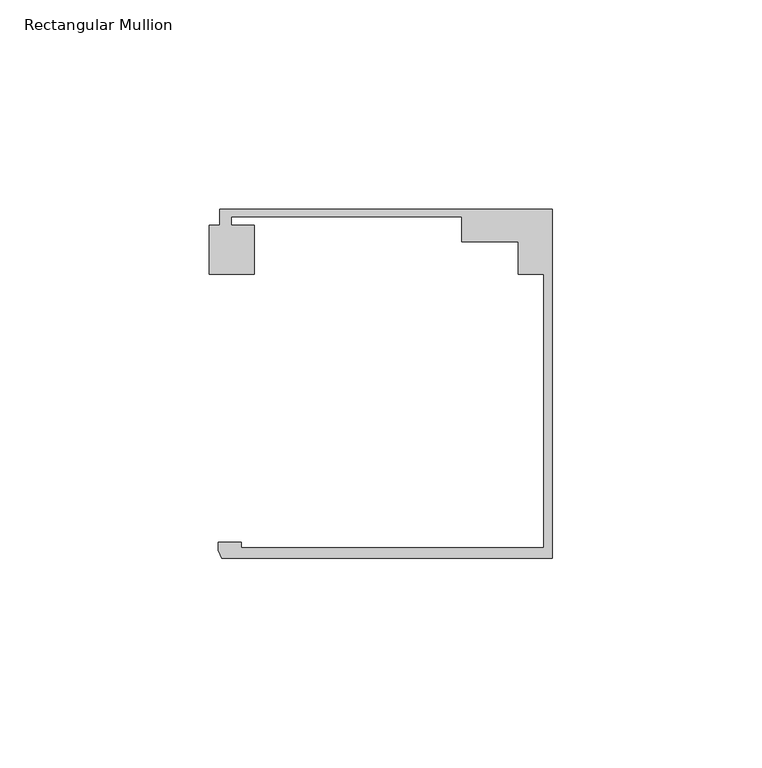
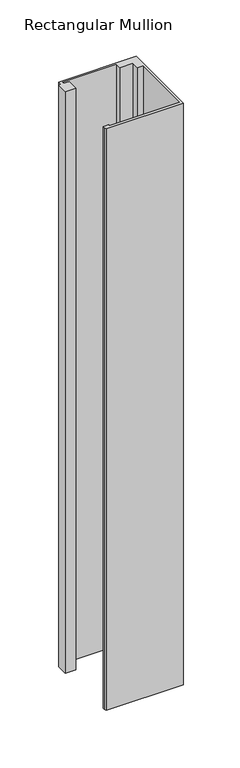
"""IFC4 building model written with IfcOpenShell, lengths in millimetres: member geometry, Rectangular Mullion : Danpal_Airpt_End-Mullion_B2."""

from ifc_helpers import new_model, si_unit, frame, origin, place, context, project, spatial, polyline, outline, extrude, source, transform, mapped, element, save


def rectangular_mullion_a7efbd97(model_context):
    return source(origin(), model_context, "Body", "SweptSolid", [
        extrude(outline(polyline([(-2.0000001, -74.9940824), (-2.0000001, -9.7188964), (-8.1, -9.7188964), (-8.1, -1.8818054), (-21.5478166, -1.8818054), (-21.5478166, 4.0051512), (-76.6478166, 4.0051512), (-76.6478166, 2.0051513), (-71.1433532, 2.0051513), (-71.1433532, -9.6875514), (-81.8592324, -9.6875514), (-81.8592324, 2.0051513), (-79.3474874, 2.0051513), (-79.3474874, 5.8051514), (0.0, 5.8051514), (0.0, -77.4940825), (-78.8515009, -77.4940825), (-79.7784606, -75.5472671), (-79.7784606, -73.6940824), (-74.2474668, -73.6940824), (-74.2474668, -74.9940824), (-2.0000001, -74.9940824)])), frame((0.0, 0.0, -630.0), z_axis=(0.0, 0.0, 1.0), x_axis=(1.0, 0.0, 0.0)), (0.0, 0.0, 1.0), 630.0),
    ])


if __name__ == "__main__":
    model = new_model("IFC4")
    model_context = context("Model", 3, world=origin())
    ifc_project = project(units=[si_unit("LENGTHUNIT", "METRE", prefix="MILLI")], contexts=[model_context])
    site = spatial("IfcSite", under=ifc_project)
    building = spatial("IfcBuilding", under=site)
    placement = place(None, origin())
    rectangular_mullion_shape = rectangular_mullion_a7efbd97(model_context)
    element("IfcMember", 1, ObjectType="Rectangular Mullion : Danpal_Airpt_End-Mullion_B2", at=placement, inside=building, context=model_context, shape_type="MappedRepresentation", body=[
        mapped(rectangular_mullion_shape, transform((0.0, 0.0, 0.0), x_axis=(1.0, 0.0, 0.0), y_axis=(0.0, 1.0, 0.0), z_axis=(0.0, 0.0, 1.0))),
    ])
    save(model, "model.ifc")
